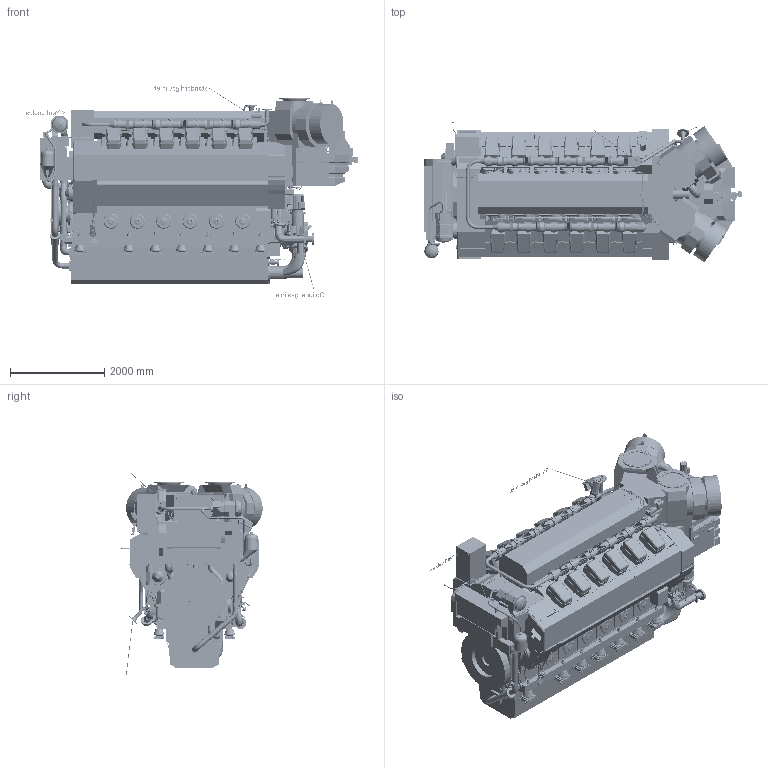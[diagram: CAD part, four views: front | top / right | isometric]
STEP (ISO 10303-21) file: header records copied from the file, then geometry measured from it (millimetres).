
FILE_DESCRIPTION(/* description */ (''),/* implementation_level */ '2;1');
FILE_NAME(/* name */ 'DAAF379563_B.stp',/* time_stamp */ '2021-12-10T13:57:53+02:00',/* author */ (''),/* organization */ (''),/* preprocessor_version */ 'ST-DEVELOPER v16.7',/* originating_system */ 'SIEMENS PLM Software NX 1915',/* authorisation */ '');
FILE_SCHEMA (('AUTOMOTIVE_DESIGN { 1 0 10303 214 3 1 1 1 }'));
Products named in the file (87): 001620194--_ROUND BAR CLASS.; 001240134--_STEEL PLATE; 001240134-A_STEEL PLATE; PAAF523057--; PAAF702810--_STUD; PABA324496--_3D tags V-TCF; PABA065852--_Gas feed pipe from roof; PABA274494--_flywheel; PAAF695508--_WASTEGATE PIPE; PAAF093449--_SEPARATOR CONNECTIONS; PAAF074446--_WET SUMP; PABA053131--_Covers in free end; PABA002081--_Main cabinet 2nd gen unic; PAAF243367--_GOVERNOR; PAAF066761--_INSULATING BOX; PAAF688045--_AIR VENT SYSTEM; PAAF688053--_AIR VENT SYSTEM; PABA173946--_Nitrogen gas pipe; PABA156629--_Gas admission valves and bellows between cylinders; PABA068010--_Gas feed pipe between banks; PABA067993--_Double wall gas feed pipe; PAAF074393--_PUMP COVER; PAAF078522--_FUEL PIPES; PABA001772--_Covers for crankcase and camshaft; PABA002426--_Oil mist detector DN150_ Dr Horn DN125; PAAF078708--_ACTUATOR; PAAF688051--_DRAIN PIPE; PABA041040--_Drain pipe from air reciever_ driving end; PAAF243373--_AIR DISTRIBUTING PIECE; PAAF689738--_CLEANING DEVICE; PAAF211478--_WASTE GATE _ BY-PASS; PAAF427671--_TURBOCHARGER; PAAF450547--_CHARGE AIR SYSTEM; PAAF695507--_COVERS; PABA033164--_Fastening equipment for charge air cooler; PAAF066738--_INSULATION BOX; PAAF093834--_LT-WATER SYSTEM; PAAF078635--_LT-WATER SYSTEM; PAAF077590--_THERMOSTATIC VALVE; PAAF078607--_HT-WATER PIPES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
Assembly tree (152 placements, depth 4):
  PABA274509--_W12V34DFC-TCF-FLEXIBLE
    PABA271994--_W12V34DFC-TCF Engine
      PABA036926--_Cylinder heads multiducts cylinder liner
      PAAF063634--_ENGINE BLOCK
      PAAF238216--_CRANKSHAFT
      PABA034962--_End cover for camshaft B-bank
      PAAF295070--_INTERMEDIATE GEAR
      PABA001563--_Shut-down mechanism
      PABA052452--_Covers for air bottle_ noise reduction
      PABA052478--_Covers top shields
      PABA052425--_Cylinder head covers 12V
      PABA053684--_Covers in flywheel end
      PAAF243684--_COVER
      PAAF074389--_END COVER
      PAAF852803--_PILOT FUEL LINE
      PAAF304653--_PUMP COVER
      PAAF087001--_WATER CONNECTIONS
      PAAF243666--_EQUIPMENT
      PAAF565855--_COVER
      PAAF078239--_COVER
      PAAF991059--_Pilot fuel line to hot box
      PAAF078077--_TURNING DEVICE
      PAAF087123--_LEAK FUEL PIPES
      PAAF247464--_FRAME
      PAAF087117--_LEAK FUEL SYSTEM
      PAAF087083--_LEAK FUEL SYSTEM
      PAAF087113--_LEAK FUEL SYSTEM
      PABA076699--_Double wall gas vent system
      PAAF245056--_LUBRICATING OIL PUMP
      PAAF243370--_PRELUBRICATING PUMP
      PAAF087128--_OIL PIPE
      PAAF990034--_Lube oil connection
      PAAF078535--_COOLING WATER PIPES
      PAAF087138--_OIL PIPE
      PAAF074410--_LUBE OIL MODULE  x2
      PAAF087147--_OIL SUCTION PIPE
      PAAF078536--_DIPSTICK
      PAAF166694--_MOTOR
      PAAF221638--_WATER PUMP
      PAAF220774--_WATER PUMP
      PAAF688036--_AIR VENT SYSTEM
      PAAF077589--_CONNECTING PIECE
      PAAF078553--_HT-WATER SYSTEM
      PAAF078607--_HT-WATER PIPES
      PAAF077590--_THERMOSTATIC VALVE
      PAAF078635--_LT-WATER SYSTEM
      PAAF093834--_LT-WATER SYSTEM
      PAAF066738--_INSULATION BOX
      PABA033164--_Fastening equipment for charge air cooler
      PAAF695507--_COVERS
      PAAF450547--_CHARGE AIR SYSTEM
      PAAF427671--_TURBOCHARGER
      PAAF211478--_WASTE GATE _ BY-PASS
      PAAF689738--_CLEANING DEVICE
      PAAF243373--_AIR DISTRIBUTING PIECE
      PABA041040--_Drain pipe from air reciever_ driving end
      PAAF688051--_DRAIN PIPE
      PAAF078708--_ACTUATOR
      PABA002426--_Oil mist detector DN150_ Dr Horn DN125
      PABA001772--_Covers for crankcase and camshaft
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Bounding box: 7054.84 x 3000.14 x 4527 mm (x, y, z)
Volume: 27675166224 mm3; surface area: 332984212.7 mm2
Topology: 521 solids, 647 shells, 19331 faces, 46825 edges, 29978 vertices
Faces by surface type: plane 10350, cylinder 4967, bspline 2309, torus 752, extrusion 473, cone 464, revolution 9, sphere 7
Full cylindrical faces by diameter (mm): 0.107 x1, 3.3 x12, 6 x16, 6.2 x112, 8 x38, 8.5 x1, 8.993 x3, 9 x20, 9.685 x1, 9.69 x1, 10 x21, 11 x19, 11.908 x1, 11.995 x1, 12 x108, 12.6 x2, 13.2 x4, 13.5 x5, 13.6 x2, 14 x63, 14.596 x1, 15 x59, 15.5 x4, 15.6 x1, 15.7 x4, 16 x19, 16.376 x1, 16.658 x1, 17 x2, 17.5 x116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
Entity records: 639369 total; most frequent: CARTESIAN_POINT 240586, DIRECTION 78094, ORIENTED_EDGE 77842, EDGE_CURVE 38921, AXIS2_PLACEMENT_3D 27787, VERTEX_POINT 26282, EDGE_LOOP 22863, VECTOR 22511
